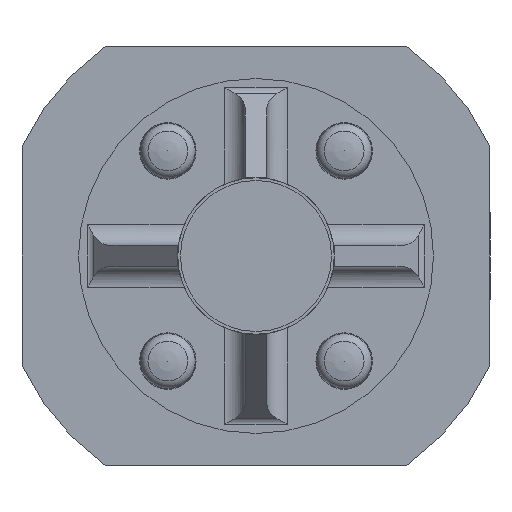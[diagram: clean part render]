
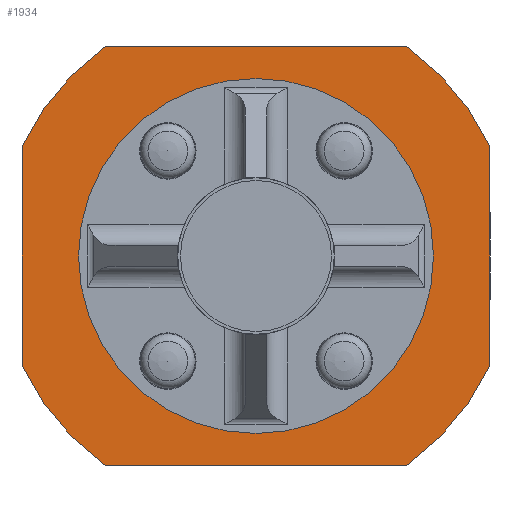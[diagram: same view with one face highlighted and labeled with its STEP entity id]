
A CAD part, front view. The second image highlights one B-rep face of the part: STEP entity #1934.
In plain terms, the highlighted planar face has unit normal (0, -1, 0).
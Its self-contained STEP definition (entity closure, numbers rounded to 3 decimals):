
#78=CIRCLE('',#2101,32.);
#81=CIRCLE('',#2106,32.);
#84=CIRCLE('',#2111,32.);
#87=CIRCLE('',#2116,32.);
#88=CIRCLE('',#2119,22.);
#424=ORIENTED_EDGE('',*,*,#884,.F.);
#425=ORIENTED_EDGE('',*,*,#859,.F.);
#426=ORIENTED_EDGE('',*,*,#883,.F.);
#427=ORIENTED_EDGE('',*,*,#880,.F.);
#428=ORIENTED_EDGE('',*,*,#877,.F.);
#429=ORIENTED_EDGE('',*,*,#873,.F.);
#430=ORIENTED_EDGE('',*,*,#870,.F.);
#431=ORIENTED_EDGE('',*,*,#866,.F.);
#432=ORIENTED_EDGE('',*,*,#863,.F.);
#859=EDGE_CURVE('',#1075,#1076,#78,.T.);
#863=EDGE_CURVE('',#1076,#1079,#1255,.T.);
#866=EDGE_CURVE('',#1079,#1081,#81,.T.);
#870=EDGE_CURVE('',#1081,#1084,#1259,.T.);
#873=EDGE_CURVE('',#1084,#1086,#84,.T.);
#877=EDGE_CURVE('',#1086,#1089,#1263,.T.);
#880=EDGE_CURVE('',#1089,#1091,#87,.T.);
#883=EDGE_CURVE('',#1091,#1075,#1267,.T.);
#884=EDGE_CURVE('',#1092,#1092,#88,.F.);
#1075=VERTEX_POINT('',#3227);
#1076=VERTEX_POINT('',#3229);
#1079=VERTEX_POINT('',#3237);
#1081=VERTEX_POINT('',#3243);
#1084=VERTEX_POINT('',#3251);
#1086=VERTEX_POINT('',#3257);
#1089=VERTEX_POINT('',#3265);
#1091=VERTEX_POINT('',#3271);
#1092=VERTEX_POINT('',#3278);
#1255=LINE('',#3236,#1379);
#1259=LINE('',#3250,#1383);
#1263=LINE('',#3264,#1387);
#1267=LINE('',#3275,#1391);
#1379=VECTOR('',#2507,1000.);
#1383=VECTOR('',#2521,1000.);
#1387=VECTOR('',#2535,1000.);
#1391=VECTOR('',#2547,1000.);
#1458=EDGE_LOOP('',(#424));
#1459=EDGE_LOOP('',(#425,#426,#427,#428,#429,#430,#431,#432));
#1668=FACE_BOUND('',#1458,.T.);
#1669=FACE_BOUND('',#1459,.T.);
#1858=PLANE('',#2118);
#1934=ADVANCED_FACE('',(#1668,#1669),#1858,.F.);
#2101=AXIS2_PLACEMENT_3D('',#3228,#2499,#2500);
#2106=AXIS2_PLACEMENT_3D('',#3242,#2513,#2514);
#2111=AXIS2_PLACEMENT_3D('',#3256,#2527,#2528);
#2116=AXIS2_PLACEMENT_3D('',#3270,#2541,#2542);
#2118=AXIS2_PLACEMENT_3D('',#3276,#2548,#2549);
#2119=AXIS2_PLACEMENT_3D('',#3277,#2550,#2551);
#2499=DIRECTION('',(0.,1.,0.));
#2500=DIRECTION('',(1.,0.,0.));
#2507=DIRECTION('',(0.,0.,1.));
#2513=DIRECTION('',(0.,1.,0.));
#2514=DIRECTION('',(1.,0.,0.));
#2521=DIRECTION('',(1.,0.,0.));
#2527=DIRECTION('',(0.,1.,0.));
#2528=DIRECTION('',(1.,0.,0.));
#2535=DIRECTION('',(0.,0.,-1.));
#2541=DIRECTION('',(0.,1.,0.));
#2542=DIRECTION('',(1.,0.,0.));
#2547=DIRECTION('',(-1.,0.,0.));
#2548=DIRECTION('',(0.,1.,0.));
#2549=DIRECTION('',(0.,0.,1.));
#2550=DIRECTION('',(0.,1.,0.));
#2551=DIRECTION('',(0.,0.,1.));
#3227=CARTESIAN_POINT('',(-18.655,-14.3,-26.));
#3228=CARTESIAN_POINT('',(0.,-14.3,0.));
#3229=CARTESIAN_POINT('',(-29.,-14.3,-13.528));
#3236=CARTESIAN_POINT('',(-29.,-14.3,-13.528));
#3237=CARTESIAN_POINT('',(-29.,-14.3,13.528));
#3242=CARTESIAN_POINT('',(0.,-14.3,0.));
#3243=CARTESIAN_POINT('',(-18.655,-14.3,26.));
#3250=CARTESIAN_POINT('',(-18.655,-14.3,26.));
#3251=CARTESIAN_POINT('',(18.655,-14.3,26.));
#3256=CARTESIAN_POINT('',(0.,-14.3,0.));
#3257=CARTESIAN_POINT('',(29.,-14.3,13.528));
#3264=CARTESIAN_POINT('',(29.,-14.3,13.528));
#3265=CARTESIAN_POINT('',(29.,-14.3,-13.528));
#3270=CARTESIAN_POINT('',(0.,-14.3,0.));
#3271=CARTESIAN_POINT('',(18.655,-14.3,-26.));
#3275=CARTESIAN_POINT('',(18.655,-14.3,-26.));
#3276=CARTESIAN_POINT('',(0.,-14.3,0.));
#3277=CARTESIAN_POINT('',(0.,-14.3,0.));
#3278=CARTESIAN_POINT('',(0.,-14.3,22.));
